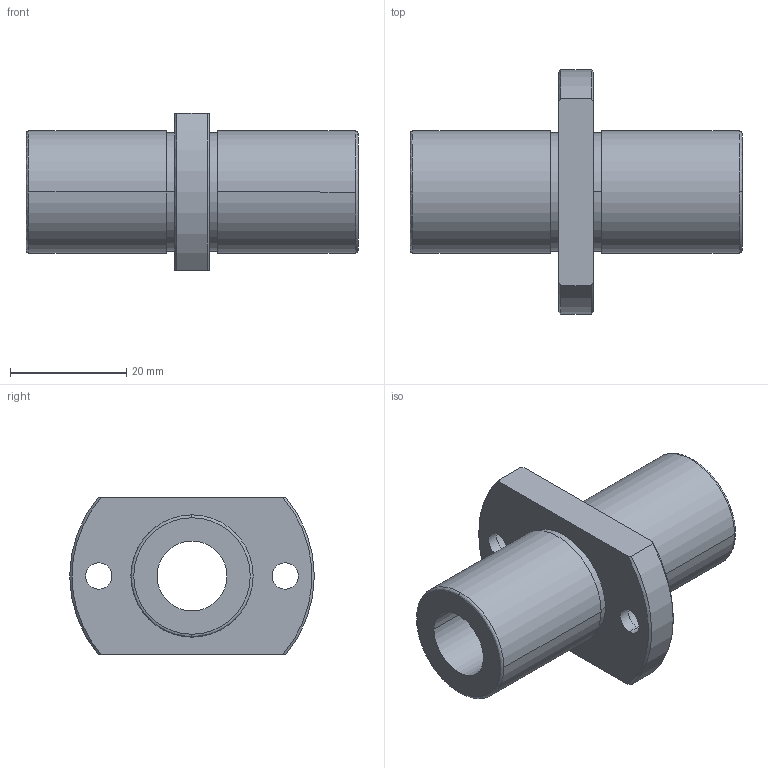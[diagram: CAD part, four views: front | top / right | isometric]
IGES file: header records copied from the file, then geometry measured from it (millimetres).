
Start section: 3D InterOp IGES (Version 21 0 1), Spatial Corp. Copyright (c) 1999-2007.
Global section: file name: NFCO-12VLUU.igs; native system: Spatial Corp.; preprocessor: 3D InterOp GENERIC/IGES 3.0; author: Noname; organization: Noname; date: 20220308.143522; units: millimetre
Bounding box: 57 x 42 x 27 mm (x, y, z)
Surface area: 8336.7 mm2 (no closed solid volume)
Topology: 0 solids, 0 shells, 41 faces, 194 edges, 194 vertices
Faces by surface type: revolution 31, extrusion 10
